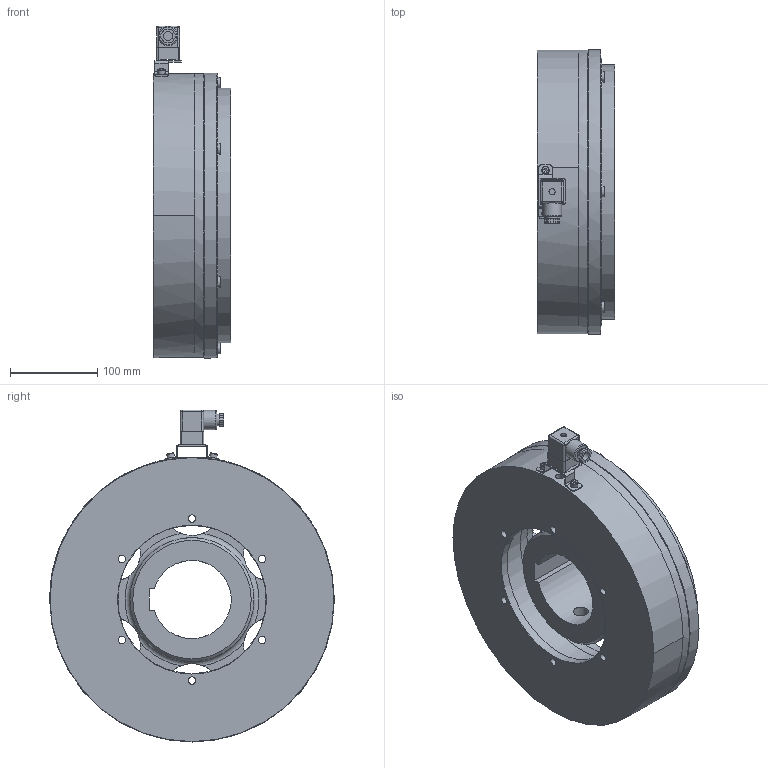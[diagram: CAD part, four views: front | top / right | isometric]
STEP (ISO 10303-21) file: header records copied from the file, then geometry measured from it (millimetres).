
FILE_DESCRIPTION(/* description */ (''),/* implementation_level */ '2;1');
FILE_NAME(/* name */ 'X:\INVENTOR\DISEGNI\08_Freni_Friz_Elettmag_Monodisco\08_28 EMFL_DF\EMFL_DF STEP\08_28_310_13 EMFL310_DF-C-MI_S@STEP.stp',/* time_stamp */ '2018-04-23T09:43:16+02:00',/* author */ ('stefano'),/* organization */ (''),/* preprocessor_version */ 'ST-DEVELOPER v17',/* originating_system */ 'Autodesk Inventor 2018',/* authorisation */ '');
FILE_SCHEMA (('AUTOMOTIVE_DESIGN { 1 0 10303 214 3 1 1 }'));
Length unit declared in the file: millimetre
Products named in the file (1): 08_28_310_13 EMFL310_DF-C-MI - Spina_Substitute_1
Bounding box: 89 x 327 x 381.11 mm (x, y, z)
Volume: 4714255.6 mm3; surface area: 595379.6 mm2
Topology: 3 solids, 3 shells, 622 faces, 1851 edges, 1239 vertices
Faces by surface type: cylinder 333, plane 223, cone 52, torus 10, sphere 4
Full cylindrical faces by diameter (mm): 2 x1, 3 x12, 5 x2, 7 x1, 8.1 x12, 8.376 x6, 8.5 x8, 9 x2, 10.5 x1, 12 x12, 13 x1, 15 x12, 16 x6, 17.294 x2, 22 x1, 35 x6, 65 x6, 142 x1, 170 x1, 202 x2, 214 x1, 238 x1, 292 x1, 300 x1, 326 x1, 327 x1
Entity records: 22635 total; most frequent: CARTESIAN_POINT 4262, DIRECTION 4099, ORIENTED_EDGE 3684, EDGE_CURVE 1842, AXIS2_PLACEMENT_3D 1721, VERTEX_POINT 1243, CIRCLE 1098, EDGE_LOOP 781
